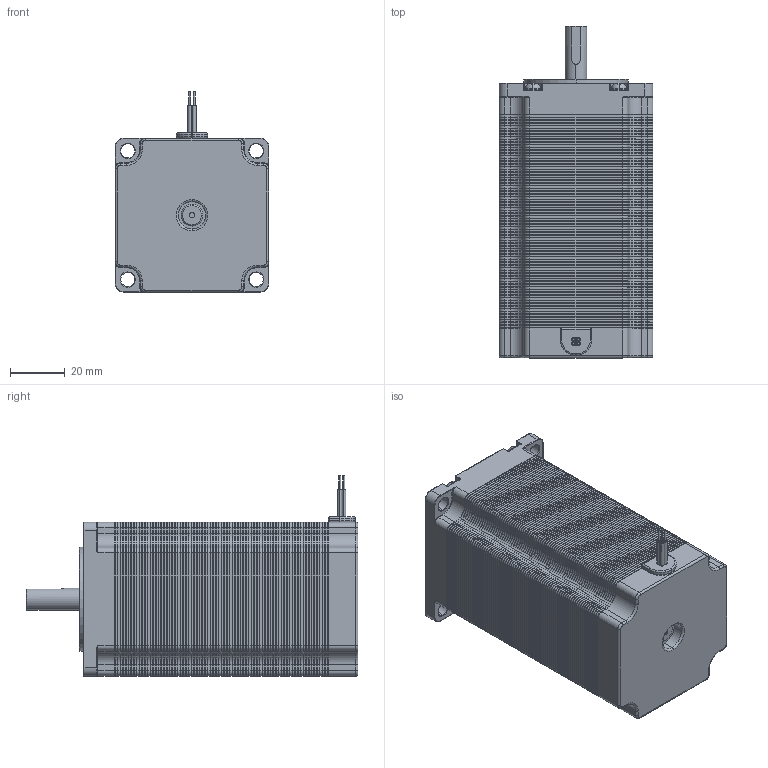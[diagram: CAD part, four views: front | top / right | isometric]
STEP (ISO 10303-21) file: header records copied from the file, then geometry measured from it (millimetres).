
FILE_DESCRIPTION (( 'STEP AP214' ), '1' );
FILE_NAME ('Nema 23 Stepper Motor length 102mm_8mm_key.STEP', '2020-11-11T15:28:11', ( 'Moofasta' ), ( '' ), 'SwSTEP 2.0', 'SolidWorks 2020', '' );
FILE_SCHEMA (( 'AUTOMOTIVE_DESIGN' ));
Length unit declared in the file: millimetre
Products named in the file (1): Nema 23 Stepper Motor length 102mm_8mm_key
Bounding box: 56.3 x 121.5 x 73.3 mm (x, y, z)
Volume: 289659.7 mm3; surface area: 477931.6 mm2
Topology: 94 solids, 94 shells, 6250 faces, 14205 edges, 8129 vertices
Faces by surface type: plane 3137, cone 1900, cylinder 1099, torus 94, sphere 12, bspline 8
Entity records: 236476 total; most frequent: DIRECTION 30838, CARTESIAN_POINT 29047, ORIENTED_EDGE 28370, EDGE_CURVE 14185, AXIS2_PLACEMENT_3D 10486, LINE 9866, VECTOR 9866, VERTEX_POINT 8129
